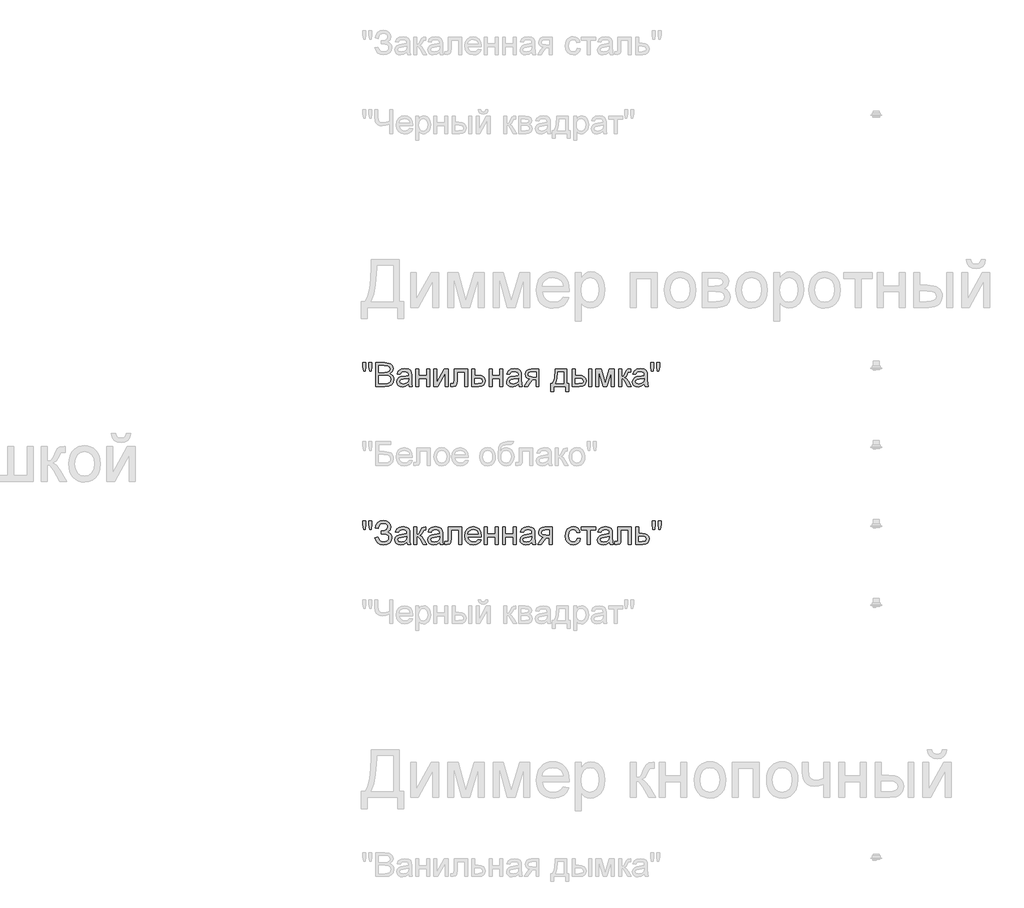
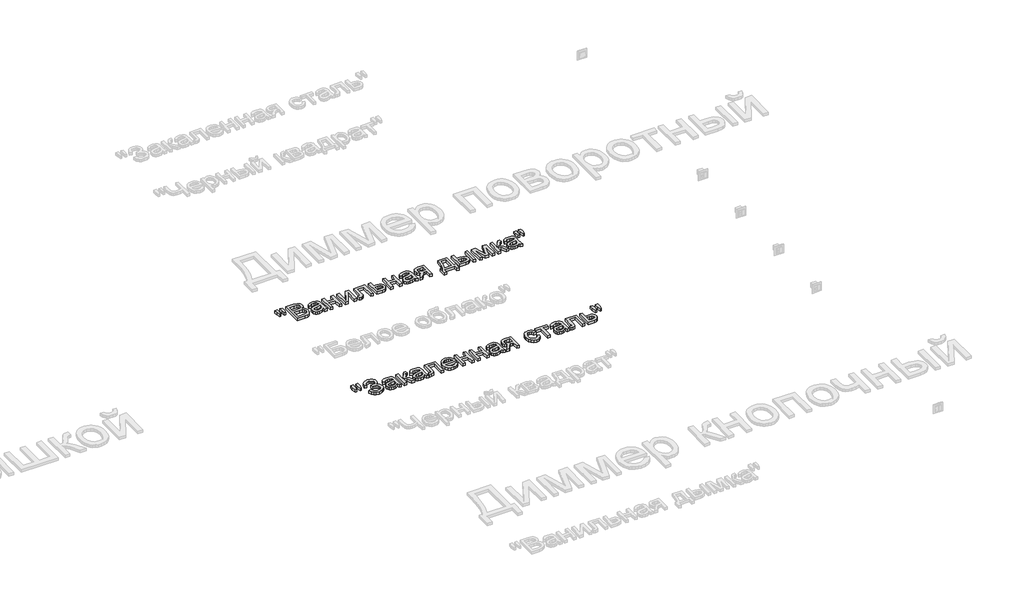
# One storey, part 158 of 168: 2 proxies.
"""IFC4 building model written with IfcOpenShell, lengths in millimetres."""

import ifcopenshell
import ifcopenshell.guid

model = None  # the IFC model being written
_history = None  # IfcOwnerHistory: only IFC2X3 demands one
_inside = {}  # id of a spatial element -> (the spatial element, [elements in it])
_under = {}  # id of a project, library or spatial element -> (it, [spatial elements below it])
_declared = {}  # id of a project -> (the project, [libraries it declares])
_typed = {}  # id of a type object -> (the type object, [elements of that type])
_made_of = {}  # id of a material, layer set ... -> (it, [elements and type objects made of it])


def new_model(schema):
    """Start an empty IFC model of exactly this schema.

    Asked for "IFC4X3", IfcOpenShell would pick the latest addendum, in which some entities
    have other attributes; the version numbers below select the first issue.
    IFC2X3 requires an IfcOwnerHistory on every rooted entity: one is made here for all.
    """
    global model, _history
    if schema == "IFC4X3":
        model = ifcopenshell.file(schema_version=(4, 3, 0, 0))
    else:
        model = ifcopenshell.file(schema=schema)
    _inside.clear()
    _under.clear()
    _declared.clear()
    _typed.clear()
    _made_of.clear()
    _history = None
    if model.schema == "IFC2X3":
        org = make("IfcOrganization", Name="unknown")
        user = make(
            "IfcPersonAndOrganization",
            ThePerson=make("IfcPerson", FamilyName="unknown"),
            TheOrganization=org,
        )
        app = make(
            "IfcApplication",
            ApplicationDeveloper=org,
            Version="unknown",
            ApplicationFullName="unknown",
            ApplicationIdentifier="unknown",
        )
        _history = make(
            "IfcOwnerHistory",
            OwningUser=user,
            OwningApplication=app,
            ChangeAction="ADDED",
            CreationDate=0,
        )
    return model


def make(cls, **values):
    """One entity of the class cls with the attributes given. An attribute that is None is left unset."""
    return model.create_entity(
        cls, **{name: value for name, value in values.items() if value is not None}
    )


def rooted(cls, **values):
    """An entity with a GlobalId (a new one), such as an element, a storey or a relation."""
    return make(cls, GlobalId=ifcopenshell.guid.new(), OwnerHistory=_history, **values)


def si_unit(unit_type, name, prefix=None):
    """IfcSIUnit, for example si_unit("LENGTHUNIT", "METRE", prefix="MILLI")."""
    return make("IfcSIUnit", UnitType=unit_type, Prefix=prefix, Name=name)


def assignment(units):
    """IfcUnitAssignment: the units of a project."""
    return None if units is None else make("IfcUnitAssignment", Units=units)


def point(xyz):
    """IfcCartesianPoint."""
    return None if xyz is None else make("IfcCartesianPoint", Coordinates=xyz)


def direction(xyz):
    """IfcDirection."""
    return None if xyz is None else make("IfcDirection", DirectionRatios=xyz)


def frame(location, z_axis=None, x_axis=None):
    """IfcAxis2Placement3D, a coordinate frame: its origin and axes. An axis left out is left unset."""
    return make(
        "IfcAxis2Placement3D",
        Location=point(location),
        Axis=direction(z_axis),
        RefDirection=direction(x_axis),
    )


def origin():
    """The frame at (0, 0, 0) with its axes left unset."""
    return frame((0.0, 0.0, 0.0))


def origin_with_axes():
    """The frame at (0, 0, 0) with the z axis (0, 0, 1) and the x axis (1, 0, 0) written out."""
    return frame((0.0, 0.0, 0.0), z_axis=(0.0, 0.0, 1.0), x_axis=(1.0, 0.0, 0.0))


def place(relative_to, where):
    """IfcLocalPlacement: puts the frame where relative to a parent placement (None: the world)."""
    return make(
        "IfcLocalPlacement", PlacementRelTo=relative_to, RelativePlacement=where
    )


def context(
    kind, dimensions, precision=None, world=None, true_north=None, identifier=None
):
    """IfcGeometricRepresentationContext, for example the 3D "Model" context."""
    return make(
        "IfcGeometricRepresentationContext",
        ContextIdentifier=identifier,
        ContextType=kind,
        CoordinateSpaceDimension=dimensions,
        Precision=precision,
        WorldCoordinateSystem=world,
        TrueNorth=true_north,
    )


def project(units=None, contexts=None):
    """IfcProject with its units and contexts."""
    return rooted(
        "IfcProject",
        Name="project",
        RepresentationContexts=contexts,
        UnitsInContext=assignment(units),
    )


def spatial(cls, under=None, at=None, **own):
    """A site, building, storey or space (cls), placed at a placement, below another one or the project."""
    s = rooted(cls, ObjectPlacement=at, **own)
    if under is not None:
        _under.setdefault(under.id(), (under, []))[1].append(s)
    return s


def polyline(points):
    """IfcPolyline through the points."""
    return make("IfcPolyline", Points=[point(p) for p in points])


def outline(outer, holes=None, kind="AREA"):
    """IfcArbitraryClosedProfileDef: a profile drawn as a closed curve; with holes, ...WithVoids."""
    if holes is None:
        return make("IfcArbitraryClosedProfileDef", ProfileType=kind, OuterCurve=outer)
    return make(
        "IfcArbitraryProfileDefWithVoids",
        ProfileType=kind,
        OuterCurve=outer,
        InnerCurves=holes,
    )


def extrude(swept, where, along, depth):
    """IfcExtrudedAreaSolid: the profile swept, set in the frame where, extruded along a direction by depth."""
    return make(
        "IfcExtrudedAreaSolid",
        SweptArea=swept,
        Position=where,
        ExtrudedDirection=direction(along),
        Depth=depth,
    )


def shape(context_of_items, identifier, shape_type, items):
    """IfcShapeRepresentation: the items that make up one representation, for example the "Body"."""
    return make(
        "IfcShapeRepresentation",
        ContextOfItems=context_of_items,
        RepresentationIdentifier=identifier,
        RepresentationType=shape_type,
        Items=items,
    )


def made_of(thing, what):
    """Note that an element or type object is made of a material, layer set ...; save() writes the relation."""
    if what is not None:
        _made_of.setdefault(what.id(), (what, []))[1].append(thing)
    return thing


def element(
    cls,
    number,
    at=None,
    inside=None,
    cuts=None,
    type_object=None,
    material=None,
    context=None,
    identifier="Body",
    shape_type=None,
    held_by="IfcProductDefinitionShape",
    body=None,
    shapes=None,
    **own,
):
    """One element of the class cls, such as IfcWall. Its Tag is "e" and its number.

    at: its placement. inside: the storey or other place that contains it. cuts: it is an
    opening in that element (IfcRelVoidsElement). A single representation is given by context,
    identifier, shape_type and body (its items); several are given by shapes. held_by: the class
    of the entity that holds the representations. save() writes the other relations.
    """
    e = rooted(cls, Tag="e%d" % number, ObjectPlacement=at, **own)
    if body is not None:
        shapes = [shape(context, identifier, shape_type, body)]
    if shapes is not None:
        e.Representation = make(held_by, Representations=shapes)
    if inside is not None:
        _inside.setdefault(inside.id(), (inside, []))[1].append(e)
    if cuts is not None:
        rooted(
            "IfcRelVoidsElement", RelatingBuildingElement=cuts, RelatedOpeningElement=e
        )
    if type_object is not None:
        _typed.setdefault(type_object.id(), (type_object, []))[1].append(e)
    return made_of(e, material)


def aggregate(whole, parts):
    """IfcRelAggregates: a whole, such as a stair, and the parts it consists of."""
    return rooted("IfcRelAggregates", RelatingObject=whole, RelatedObjects=parts)


def save(model, path):
    """Write the relations noted so far, then the file.

    IfcRelAggregates (storeys below a building ...), IfcRelContainedInSpatialStructure (elements
    in a storey), IfcRelDefinesByType, IfcRelAssociatesMaterial and IfcRelDeclares: one each for
    every whole, place, type object, material and project.
    """
    for whole, parts in _under.values():
        aggregate(whole, parts)
    for where, things in _inside.values():
        rooted(
            "IfcRelContainedInSpatialStructure",
            RelatedElements=things,
            RelatingStructure=where,
        )
    for kind, things in _typed.values():
        rooted("IfcRelDefinesByType", RelatedObjects=things, RelatingType=kind)
    for what, things in _made_of.values():
        rooted("IfcRelAssociatesMaterial", RelatedObjects=things, RelatingMaterial=what)
    for by, libraries in _declared.values():
        rooted("IfcRelDeclares", RelatingContext=by, RelatedDefinitions=libraries)
    model.write(path)


model = new_model("IFC4")

# Units and contexts
model_context = context("Model", 3, world=origin())
ifc_project = project(units=[si_unit("LENGTHUNIT", "METRE", prefix="MILLI")], contexts=[model_context])

# Site, building, storey
site = spatial("IfcSite", under=ifc_project)
building = spatial("IfcBuilding", under=site)
storey = spatial("IfcBuildingStorey", under=building, Name="Этаж 01", Elevation=0.0)

# Proxies
placement = place(None, origin())
element("IfcBuildingElementProxy", 1, Name="150", ObjectType="150", at=placement, inside=storey, context=model_context, shape_type="SweptSolid", body=[
    extrude(outline(polyline([(71080.1485789, -8551.873446), (71075.550054, -8522.7739802), (71075.550054, -8497.7212163), (71094.3856121, -8497.7212163), (71094.3856121, -8522.7739802), (71090.2653338, -8551.873446), (71080.1485789, -8551.873446)])), origin_with_axes(), (0.0, 0.0, 1.0), 20.0),
    extrude(outline(polyline([(71117.7093306, -8551.873446), (71113.2211703, -8522.7739802), (71113.2211703, -8497.7212163), (71132.0567284, -8497.7212163), (71132.0567284, -8522.7739802), (71127.6421445, -8551.873446), (71117.7093306, -8551.873446)])), origin_with_axes(), (0.0, 0.0, 1.0), 20.0),
    extrude(outline(polyline([(71157.9556209, -8648.4056816), (71157.9556209, -8497.7212163), (71215.4555767, -8497.7212163), (71243.6169435, -8502.1541944), (71253.0807078, -8507.7781904), (71260.2452096, -8515.7842223), (71266.2600803, -8535.0612389), (71261.2017028, -8552.6643923), (71245.9162059, -8566.0001146), (71256.5893823, -8571.5735269), (71264.4758526, -8580.0532069), (71269.3456905, -8590.8781346), (71270.9689698, -8603.48729), (71266.5359918, -8623.7391938), (71255.5547142, -8638.160168), (71239.1655713, -8645.8121135), (71215.0141183, -8648.4056816), (71157.9556209, -8648.4056816)]), holes=[polyline([(71176.791179, -8558.9367803), (71211.1881456, -8558.9367803), (71231.2745025, -8557.3180996), (71243.3594261, -8550.3467358), (71247.4245221, -8538.0778712), (71243.6353376, -8525.7906126), (71232.7828187, -8518.5249432), (71208.5761834, -8516.5567745), (71176.791179, -8516.5567745), (71176.791179, -8558.9367803)]), polyline([(71176.791179, -8629.5701234), (71215.4187885, -8629.5701234), (71229.3983043, -8628.8343594), (71241.2257105, -8624.7324752), (71249.061597, -8616.3631598), (71252.1334117, -8603.671231), (71248.5281681, -8589.0295275), (71236.8479148, -8580.2923302), (71213.5793786, -8577.7723385), (71176.791179, -8577.7723385), (71176.791179, -8629.5701234)])]), origin_with_axes(), (0.0, 0.0, 1.0), 20.0),
    extrude(outline(polyline([(71365.1467606, -8634.279013), (71346.8814195, -8647.0445182), (71326.7030921, -8650.7601263), (71310.9623412, -8648.5252432), (71299.3510657, -8641.8205939), (71292.1911624, -8631.6394596), (71289.804528, -8618.975122), (71293.4097715, -8604.0759012), (71302.8827329, -8593.2601705), (71316.0713024, -8587.079753), (71332.3684748, -8584.2470616), (71365.036396, -8577.7723385), (71365.1467606, -8573.5784838), (71363.8499765, -8565.1723802), (71359.9596244, -8559.6725443), (71351.2592153, -8555.5890542), (71339.1375035, -8554.2278908), (71320.0812162, -8557.8515285), (71310.9945309, -8570.7090042), (71292.1589727, -8568.3545594), (71300.3075589, -8549.9604597), (71316.7150959, -8539.1815172), (71341.5655247, -8535.3923327), (71364.3926025, -8538.7400588), (71377.2868664, -8547.1461624), (71383.0626137, -8559.9300617), (71383.9823187, -8576.4111751), (71383.9823187, -8599.8452582), (71384.9388119, -8632.5683617), (71388.6912083, -8648.4056816), (71369.8556501, -8648.4056816), (71365.1467606, -8634.279013)]), holes=[polyline([(71365.1467606, -8596.6078966), (71334.7597078, -8602.383644), (71318.5545059, -8605.4370645), (71311.2152601, -8610.4034715), (71308.6400861, -8617.6507468), (71314.2502865, -8627.841078), (71330.7130058, -8631.9245682), (71349.7692932, -8627.4180137), (71362.0565518, -8616.5103126), (71365.036396, -8601.9421856), (71365.1467606, -8596.6078966)])]), origin_with_axes(), (0.0, 0.0, 1.0), 20.0),
    extrude(outline(polyline([(71409.8812112, -8537.7467774), (71428.7167693, -8537.7467774), (71428.7167693, -8580.1267833), (71478.1601095, -8580.1267833), (71478.1601095, -8537.7467774), (71496.9956676, -8537.7467774), (71496.9956676, -8648.4056816), (71478.1601095, -8648.4056816), (71478.1601095, -8598.9623414), (71428.7167693, -8598.9623414), (71428.7167693, -8648.4056816), (71409.8812112, -8648.4056816), (71409.8812112, -8537.7467774)])), origin_with_axes(), (0.0, 0.0, 1.0), 20.0),
    extrude(outline(polyline([(71525.2490049, -8537.7467774), (71544.084563, -8537.7467774), (71544.084563, -8622.1389071), (71590.364118, -8537.7467774), (71614.7179061, -8537.7467774), (71614.7179061, -8648.4056816), (71595.8823479, -8648.4056816), (71595.8823479, -8564.5285867), (71549.8970985, -8648.4056816), (71525.2490049, -8648.4056816), (71525.2490049, -8537.7467774)])), origin_with_axes(), (0.0, 0.0, 1.0), 20.0),
    extrude(outline(polyline([(71652.3890224, -8537.7467774), (71737.1490341, -8537.7467774), (71737.1490341, -8648.295317), (71718.3134759, -8648.295317), (71718.3134759, -8556.5823356), (71671.2245806, -8556.5823356), (71671.2245806, -8609.3734019), (71669.9553877, -8633.72719), (71662.9840239, -8644.0094917), (71646.5029105, -8648.4056816), (71631.1990195, -8647.4491884), (71631.1990195, -8629.5701234), (71639.6235172, -8629.5701234), (71648.1399854, -8628.4112951), (71651.5428938, -8624.7324752), (71652.3890224, -8608.3065441), (71652.3890224, -8537.7467774)])), origin_with_axes(), (0.0, 0.0, 1.0), 20.0),
    extrude(outline(polyline([(71765.4023713, -8537.7467774), (71784.2379295, -8537.7467774), (71784.2379295, -8577.7723385), (71805.9429672, -8577.7723385), (71824.7601312, -8580.1313818), (71838.6844648, -8587.2085117), (71847.2929034, -8598.433511), (71850.162383, -8613.2361628), (71847.7205663, -8626.7144394), (71840.395116, -8638.0865916), (71827.6985887, -8645.8259091), (71809.1435405, -8648.4056816), (71765.4023713, -8648.4056816), (71765.4023713, -8537.7467774)]), holes=[polyline([(71784.2379295, -8629.5701234), (71801.8226888, -8629.5701234), (71824.539402, -8625.615392), (71829.6299692, -8620.552416), (71831.3268249, -8613.272951), (71826.3052356, -8601.6846682), (71818.2348244, -8597.8770895), (71804.066769, -8596.6078966), (71784.2379295, -8596.6078966), (71784.2379295, -8629.5701234)])]), origin_with_axes(), (0.0, 0.0, 1.0), 20.0),
    extrude(outline(polyline([(71873.7068307, -8537.7467774), (71892.5423889, -8537.7467774), (71892.5423889, -8580.1267833), (71941.985729, -8580.1267833), (71941.985729, -8537.7467774), (71960.8212872, -8537.7467774), (71960.8212872, -8648.4056816), (71941.985729, -8648.4056816), (71941.985729, -8598.9623414), (71892.5423889, -8598.9623414), (71892.5423889, -8648.4056816), (71873.7068307, -8648.4056816), (71873.7068307, -8537.7467774)])), origin_with_axes(), (0.0, 0.0, 1.0), 20.0),
    extrude(outline(polyline([(72059.7079675, -8634.279013), (72041.4426264, -8647.0445182), (72021.264299, -8650.7601263), (72005.5235481, -8648.5252432), (71993.9122726, -8641.8205939), (71986.7523693, -8631.6394596), (71984.3657349, -8618.975122), (71987.9709784, -8604.0759012), (71997.4439398, -8593.2601705), (72010.6325093, -8587.079753), (72026.9296817, -8584.2470616), (72059.5976029, -8577.7723385), (72059.7079675, -8573.5784838), (72058.4111834, -8565.1723802), (72054.5208313, -8559.6725443), (72045.8204221, -8555.5890542), (72033.6987104, -8554.2278908), (72014.6424231, -8557.8515285), (72005.5557378, -8570.7090042), (71986.7201796, -8568.3545594), (71994.8687658, -8549.9604597), (72011.2763028, -8539.1815172), (72036.1267316, -8535.3923327), (72058.9538094, -8538.7400588), (72071.8480733, -8547.1461624), (72077.6238206, -8559.9300617), (72078.5435256, -8576.4111751), (72078.5435256, -8599.8452582), (72079.5000188, -8632.5683617), (72083.2524152, -8648.4056816), (72064.416857, -8648.4056816), (72059.7079675, -8634.279013)]), holes=[polyline([(72059.7079675, -8596.6078966), (72029.3209147, -8602.383644), (72013.1157128, -8605.4370645), (72005.776467, -8610.4034715), (72003.201293, -8617.6507468), (72008.8114934, -8627.841078), (72025.2742127, -8631.9245682), (72044.3305001, -8627.4180137), (72056.6177587, -8616.5103126), (72059.5976029, -8601.9421856), (72059.7079675, -8596.6078966)])]), origin_with_axes(), (0.0, 0.0, 1.0), 20.0),
    extrude(outline(polyline([(72189.2024298, -8537.7467774), (72189.2024298, -8648.4056816), (72170.3668716, -8648.4056816), (72170.3668716, -8606.0256757), (72160.1029639, -8606.0256757), (72146.1234481, -8608.4169087), (72132.9900609, -8624.4933519), (72117.9804755, -8648.4056816), (72096.2018614, -8648.4056816), (72115.1109959, -8618.1657816), (72123.4619172, -8607.3132627), (72131.1506509, -8602.4940086), (72118.2747811, -8598.5484742), (72109.224884, -8591.0528785), (72103.872201, -8581.0832765), (72102.0879733, -8569.7157228), (72104.5251915, -8556.8214589), (72111.8368462, -8546.6127335), (72123.7654199, -8539.9632664), (72140.0533952, -8537.7467774), (72189.2024298, -8537.7467774)]), holes=[polyline([(72170.3668716, -8556.5823356), (72145.5348369, -8556.5823356), (72132.7095509, -8557.672186), (72125.4300859, -8560.9417372), (72120.9235315, -8571.1504626), (72122.583599, -8578.32876), (72127.5638015, -8583.3089625), (72151.0898551, -8587.1901176), (72170.3668716, -8587.1901176), (72170.3668716, -8556.5823356)])]), origin_with_axes(), (0.0, 0.0, 1.0), 20.0),
    extrude(outline(polyline([(72292.7979996, -8537.7467774), (72363.4313427, -8537.7467774), (72363.4313427, -8629.5701234), (72377.5580113, -8629.5701234), (72377.5580113, -8679.0134636), (72358.7224531, -8679.0134636), (72358.7224531, -8648.4056816), (72281.0257758, -8648.4056816), (72281.0257758, -8679.0134636), (72262.1902176, -8679.0134636), (72262.1902176, -8629.5701234), (72273.9624415, -8629.5701234), (72282.5202964, -8614.105284), (72288.5121744, -8593.6464466), (72292.7979996, -8537.7467774)]), holes=[polyline([(72309.279113, -8556.5823356), (72304.864529, -8599.4957703), (72295.1524444, -8629.5701234), (72344.5957845, -8629.5701234), (72344.5957845, -8556.5823356), (72309.279113, -8556.5823356)])]), origin_with_axes(), (0.0, 0.0, 1.0), 20.0),
    extrude(outline(polyline([(72502.3435841, -8537.7467774), (72521.1791422, -8537.7467774), (72521.1791422, -8648.4056816), (72502.3435841, -8648.4056816), (72502.3435841, -8537.7467774)])), origin_with_axes(), (0.0, 0.0, 1.0), 20.0),
    extrude(outline(polyline([(72398.7480142, -8537.7467774), (72417.5835724, -8537.7467774), (72417.5835724, -8577.7723385), (72440.8705027, -8577.7723385), (72460.9982463, -8580.1313818), (72475.9112627, -8587.2085117), (72485.1405023, -8598.433511), (72488.2169154, -8613.2361628), (72485.637143, -8626.7144394), (72477.8978255, -8638.0865916), (72464.4931253, -8645.8259091), (72444.9172046, -8648.4056816), (72398.7480142, -8648.4056816), (72398.7480142, -8537.7467774)]), holes=[polyline([(72417.5835724, -8629.5701234), (72436.9341653, -8629.5701234), (72461.9133528, -8625.615392), (72467.5143562, -8620.552416), (72469.3813573, -8613.272951), (72463.8447333, -8601.6846682), (72454.9649816, -8597.8770895), (72439.3989747, -8596.6078966), (72417.5835724, -8596.6078966), (72417.5835724, -8629.5701234)])]), origin_with_axes(), (0.0, 0.0, 1.0), 20.0),
    extrude(outline(polyline([(72549.4324794, -8537.7467774), (72581.8428832, -8537.7467774), (72606.8220707, -8626.3327619), (72633.7510327, -8537.7467774), (72664.8002731, -8537.7467774), (72664.8002731, -8648.4056816), (72645.964715, -8648.4056816), (72645.964715, -8559.3046623), (72618.8886001, -8648.4056816), (72594.1669301, -8648.4056816), (72568.2680376, -8555.0372312), (72568.2680376, -8648.4056816), (72549.4324794, -8648.4056816), (72549.4324794, -8537.7467774)])), origin_with_axes(), (0.0, 0.0, 1.0), 20.0),
    extrude(outline(polyline([(72693.0536104, -8537.7467774), (72711.8891685, -8537.7467774), (72711.8891685, -8584.8356728), (72724.5075209, -8581.4511584), (72734.845005, -8561.7326835), (72743.4350496, -8544.7181412), (72751.0134187, -8539.1815172), (72764.7905994, -8537.7467774), (72768.395843, -8537.7467774), (72768.395843, -8556.6927002), (72763.3190714, -8556.5823356), (72754.1220216, -8558.5688983), (72747.6472984, -8570.9665216), (72740.0505352, -8584.3758203), (72729.4003515, -8590.9425139), (72741.2829399, -8598.2725627), (72752.9447992, -8613.7144094), (72773.1047325, -8648.4056816), (72751.6940004, -8648.4056816), (72731.9387373, -8614.4501734), (72722.0059234, -8600.0843815), (72711.8891685, -8596.6078966), (72711.8891685, -8648.4056816), (72693.0536104, -8648.4056816), (72693.0536104, -8537.7467774)])), origin_with_axes(), (0.0, 0.0, 1.0), 20.0),
    extrude(outline(polyline([(72855.5102994, -8634.279013), (72837.2449584, -8647.0445182), (72817.0666309, -8650.7601263), (72801.3258801, -8648.5252432), (72789.7146046, -8641.8205939), (72782.5547013, -8631.6394596), (72780.1680668, -8618.975122), (72783.7733104, -8604.0759012), (72793.2462717, -8593.2601705), (72806.4348413, -8587.079753), (72822.7320137, -8584.2470616), (72855.3999348, -8577.7723385), (72855.5102994, -8573.5784838), (72854.2135154, -8565.1723802), (72850.3231633, -8559.6725443), (72841.6227541, -8555.5890542), (72829.5010424, -8554.2278908), (72810.444755, -8557.8515285), (72801.3580697, -8570.7090042), (72782.5225116, -8568.3545594), (72790.6710978, -8549.9604597), (72807.0786348, -8539.1815172), (72831.9290635, -8535.3923327), (72854.7561413, -8538.7400588), (72867.6504053, -8547.1461624), (72873.4261526, -8559.9300617), (72874.3458576, -8576.4111751), (72874.3458576, -8599.8452582), (72875.3023508, -8632.5683617), (72879.0547471, -8648.4056816), (72860.219189, -8648.4056816), (72855.5102994, -8634.279013)]), holes=[polyline([(72855.5102994, -8596.6078966), (72825.1232466, -8602.383644), (72808.9180447, -8605.4370645), (72801.5787989, -8610.4034715), (72799.003625, -8617.6507468), (72804.6138254, -8627.841078), (72821.0765447, -8631.9245682), (72840.132832, -8627.4180137), (72852.4200907, -8616.5103126), (72855.3999348, -8601.9421856), (72855.5102994, -8596.6078966)])]), origin_with_axes(), (0.0, 0.0, 1.0), 20.0),
    extrude(outline(polyline([(72900.1343854, -8551.873446), (72895.5358605, -8522.7739802), (72895.5358605, -8497.7212163), (72914.3714187, -8497.7212163), (72914.3714187, -8522.7739802), (72910.2511403, -8551.873446), (72900.1343854, -8551.873446)])), origin_with_axes(), (0.0, 0.0, 1.0), 20.0),
    extrude(outline(polyline([(72937.6951372, -8551.873446), (72933.2069768, -8522.7739802), (72933.2069768, -8497.7212163), (72952.042535, -8497.7212163), (72952.042535, -8522.7739802), (72947.627951, -8551.873446), (72937.6951372, -8551.873446)])), origin_with_axes(), (0.0, 0.0, 1.0), 20.0),
])
element("IfcBuildingElementProxy", 2, Name="150", ObjectType="150", at=placement, inside=storey, context=model_context, shape_type="SweptSolid", body=[
    extrude(outline(polyline([(71080.1485789, -9551.873446), (71075.550054, -9522.7739802), (71075.550054, -9497.7212163), (71094.3856121, -9497.7212163), (71094.3856121, -9522.7739802), (71090.2653338, -9551.873446), (71080.1485789, -9551.873446)])), origin_with_axes(), (0.0, 0.0, 1.0), 20.0),
    extrude(outline(polyline([(71117.7093306, -9551.873446), (71113.2211703, -9522.7739802), (71113.2211703, -9497.7212163), (71132.0567284, -9497.7212163), (71132.0567284, -9522.7739802), (71127.6421445, -9551.873446), (71117.7093306, -9551.873446)])), origin_with_axes(), (0.0, 0.0, 1.0), 20.0),
    extrude(outline(polyline([(71150.8922866, -9606.0256757), (71169.7278447, -9601.3167862), (71181.2977335, -9621.7158428), (71192.2284273, -9629.3723868), (71206.2217387, -9631.9245682), (71220.398991, -9630.0069833), (71231.2193202, -9624.2542286), (71238.0757209, -9615.7883442), (71240.3611878, -9605.7313701), (71237.8641888, -9595.1961495), (71230.3731916, -9587.0613589), (71218.5779752, -9581.8604272), (71203.1683181, -9580.1267833), (71193.2722924, -9580.1267833), (71193.2722924, -9561.2912251), (71214.591054, -9559.7645148), (71227.6324708, -9551.9654165), (71233.2978535, -9537.7099892), (71231.4124583, -9528.8394346), (71225.7562726, -9521.2104817), (71216.8811195, -9515.9543677), (71205.3388219, -9514.2023297), (71186.1169876, -9519.591801), (71175.117316, -9533.8840165), (71172.0822895, -9547.1645565), (71153.2467313, -9542.455667), (71159.0983543, -9521.8542752), (71169.7002536, -9507.1389954), (71185.0524291, -9498.3098275), (71205.1548809, -9495.3667716), (71224.5468605, -9498.4247907), (71239.4598769, -9507.5988479), (71248.965028, -9520.8655924), (71252.1334117, -9536.201673), (71247.2037929, -9554.8440931), (71232.4149367, -9568.7592296), (71242.8903765, -9573.5830823), (71251.5080123, -9581.7270699), (71257.2745625, -9592.4922168), (71259.196746, -9605.1795471), (71255.508729, -9623.0172254), (71244.444678, -9637.6819214), (71227.2921799, -9647.4905751), (71205.3388219, -9650.7601263), (71186.2365493, -9647.9642232), (71170.7947025, -9639.5765137), (71159.0132816, -9625.5969979), (71150.8922866, -9606.0256757)])), origin_with_axes(), (0.0, 0.0, 1.0), 20.0),
    extrude(outline(polyline([(71353.3745367, -9634.279013), (71335.1091957, -9647.0445182), (71314.9308682, -9650.7601263), (71299.1901174, -9648.5252432), (71287.5788419, -9641.8205939), (71280.4189386, -9631.6394596), (71278.0323041, -9618.975122), (71281.6375477, -9604.0759012), (71291.110509, -9593.2601705), (71304.2990786, -9587.079753), (71320.596251, -9584.2470616), (71353.2641721, -9577.7723385), (71353.3745367, -9573.5784838), (71352.0777527, -9565.1723802), (71348.1874006, -9559.6725443), (71339.4869914, -9555.5890542), (71327.3652797, -9554.2278908), (71308.3089923, -9557.8515285), (71299.222307, -9570.7090042), (71280.3867489, -9568.3545594), (71288.5353351, -9549.9604597), (71304.9428721, -9539.1815172), (71329.7933008, -9535.3923327), (71352.6203786, -9538.7400588), (71365.5146426, -9547.1461624), (71371.2903899, -9559.9300617), (71372.2100949, -9576.4111751), (71372.2100949, -9599.8452582), (71373.1665881, -9632.5683617), (71376.9189844, -9648.4056816), (71358.0834263, -9648.4056816), (71353.3745367, -9634.279013)]), holes=[polyline([(71353.3745367, -9596.6078966), (71322.9874839, -9602.383644), (71306.782282, -9605.4370645), (71299.4430362, -9610.4034715), (71296.8678623, -9617.6507468), (71302.4780627, -9627.841078), (71318.940782, -9631.9245682), (71337.9970693, -9627.4180137), (71350.284328, -9616.5103126), (71353.2641721, -9601.9421856), (71353.3745367, -9596.6078966)])]), origin_with_axes(), (0.0, 0.0, 1.0), 20.0),
    extrude(outline(polyline([(71398.1089873, -9537.7467774), (71416.9445455, -9537.7467774), (71416.9445455, -9584.8356728), (71429.5628979, -9581.4511584), (71439.900382, -9561.7326835), (71448.4904266, -9544.7181412), (71456.0687957, -9539.1815172), (71469.8459764, -9537.7467774), (71473.4512199, -9537.7467774), (71473.4512199, -9556.6927002), (71468.3744484, -9556.5823356), (71459.1773985, -9558.5688983), (71452.7026754, -9570.9665216), (71445.1059122, -9584.3758203), (71434.4557285, -9590.9425139), (71446.3383169, -9598.2725627), (71458.0001762, -9613.7144094), (71478.1601095, -9648.4056816), (71456.7493774, -9648.4056816), (71436.9941142, -9614.4501734), (71427.0613004, -9600.0843815), (71416.9445455, -9596.6078966), (71416.9445455, -9648.4056816), (71398.1089873, -9648.4056816), (71398.1089873, -9537.7467774)])), origin_with_axes(), (0.0, 0.0, 1.0), 20.0),
    extrude(outline(polyline([(71560.5656764, -9634.279013), (71542.3003353, -9647.0445182), (71522.1220079, -9650.7601263), (71506.381257, -9648.5252432), (71494.7699816, -9641.8205939), (71487.6100782, -9631.6394596), (71485.2234438, -9618.975122), (71488.8286873, -9604.0759012), (71498.3016487, -9593.2601705), (71511.4902183, -9587.079753), (71527.7873906, -9584.2470616), (71560.4553118, -9577.7723385), (71560.5656764, -9573.5784838), (71559.2688924, -9565.1723802), (71555.3785403, -9559.6725443), (71546.6781311, -9555.5890542), (71534.5564193, -9554.2278908), (71515.500132, -9557.8515285), (71506.4134467, -9570.7090042), (71487.5778886, -9568.3545594), (71495.7264748, -9549.9604597), (71512.1340117, -9539.1815172), (71536.9844405, -9535.3923327), (71559.8115183, -9538.7400588), (71572.7057822, -9547.1461624), (71578.4815296, -9559.9300617), (71579.4012346, -9576.4111751), (71579.4012346, -9599.8452582), (71580.3577277, -9632.5683617), (71584.1101241, -9648.4056816), (71565.2745659, -9648.4056816), (71560.5656764, -9634.279013)]), holes=[polyline([(71560.5656764, -9596.6078966), (71530.1786236, -9602.383644), (71513.9734217, -9605.4370645), (71506.6341759, -9610.4034715), (71504.0590019, -9617.6507468), (71509.6692024, -9627.841078), (71526.1319217, -9631.9245682), (71545.188209, -9627.4180137), (71557.4754676, -9616.5103126), (71560.4553118, -9601.9421856), (71560.5656764, -9596.6078966)])]), origin_with_axes(), (0.0, 0.0, 1.0), 20.0),
    extrude(outline(polyline([(71614.7179061, -9537.7467774), (71699.4779178, -9537.7467774), (71699.4779178, -9648.295317), (71680.6423596, -9648.295317), (71680.6423596, -9556.5823356), (71633.5534643, -9556.5823356), (71633.5534643, -9609.3734019), (71632.2842714, -9633.72719), (71625.3129076, -9644.0094917), (71608.8317942, -9648.4056816), (71593.5279032, -9647.4491884), (71593.5279032, -9629.5701234), (71601.9524009, -9629.5701234), (71610.4688691, -9628.4112951), (71613.8717775, -9624.7324752), (71614.7179061, -9608.3065441), (71614.7179061, -9537.7467774)])), origin_with_axes(), (0.0, 0.0, 1.0), 20.0),
    extrude(outline(polyline([(71805.2072032, -9615.4434548), (71823.6748794, -9617.7978996), (71817.0208138, -9631.713036), (71806.4028197, -9642.1148995), (71792.0600204, -9648.5988196), (71774.2315392, -9650.7601263), (71752.1310283, -9647.0307226), (71735.1256831, -9635.8425114), (71724.2823613, -9617.9220597), (71720.6679207, -9593.9959345), (71724.3191495, -9569.2650674), (71735.2728359, -9550.7698), (71752.0482549, -9539.2366995), (71773.1646814, -9535.3923327), (71793.6235189, -9539.2275025), (71809.971275, -9550.7330118), (71820.6904367, -9569.191491), (71824.2634906, -9593.8855699), (71824.153126, -9598.9623414), (71739.5034789, -9598.9623414), (71742.763833, -9613.0614189), (71750.3376036, -9623.4264941), (71761.2682974, -9629.8000497), (71774.5994212, -9631.9245682), (71793.0670974, -9627.9882308), (71805.2072032, -9615.4434548)]), holes=[polyline([(71739.5034789, -9580.1267833), (71805.4279324, -9580.1267833), (71802.8803496, -9570.1755753), (71797.8863515, -9563.0570587), (71786.9050739, -9556.4351828), (71773.091105, -9554.2278908), (71760.3945777, -9555.9891259), (71749.8961452, -9561.272831), (71742.5982861, -9569.5087892), (71739.5034789, -9580.1267833)])]), origin_with_axes(), (0.0, 0.0, 1.0), 20.0),
    extrude(outline(polyline([(71843.0990487, -9537.7467774), (71861.9346069, -9537.7467774), (71861.9346069, -9580.1267833), (71911.377947, -9580.1267833), (71911.377947, -9537.7467774), (71930.2135052, -9537.7467774), (71930.2135052, -9648.4056816), (71911.377947, -9648.4056816), (71911.377947, -9598.9623414), (71861.9346069, -9598.9623414), (71861.9346069, -9648.4056816), (71843.0990487, -9648.4056816), (71843.0990487, -9537.7467774)])), origin_with_axes(), (0.0, 0.0, 1.0), 20.0),
    extrude(outline(polyline([(71958.4668424, -9537.7467774), (71977.3024005, -9537.7467774), (71977.3024005, -9580.1267833), (72026.7457407, -9580.1267833), (72026.7457407, -9537.7467774), (72045.5812988, -9537.7467774), (72045.5812988, -9648.4056816), (72026.7457407, -9648.4056816), (72026.7457407, -9598.9623414), (71977.3024005, -9598.9623414), (71977.3024005, -9648.4056816), (71958.4668424, -9648.4056816), (71958.4668424, -9537.7467774)])), origin_with_axes(), (0.0, 0.0, 1.0), 20.0),
    extrude(outline(polyline([(72144.4679792, -9634.279013), (72126.2026381, -9647.0445182), (72106.0243107, -9650.7601263), (72090.2835598, -9648.5252432), (72078.6722843, -9641.8205939), (72071.512381, -9631.6394596), (72069.1257465, -9618.975122), (72072.7309901, -9604.0759012), (72082.2039515, -9593.2601705), (72095.392521, -9587.079753), (72111.6896934, -9584.2470616), (72144.3576146, -9577.7723385), (72144.4679792, -9573.5784838), (72143.1711951, -9565.1723802), (72139.280843, -9559.6725443), (72130.5804338, -9555.5890542), (72118.4587221, -9554.2278908), (72099.4024347, -9557.8515285), (72090.3157495, -9570.7090042), (72071.4801913, -9568.3545594), (72079.6287775, -9549.9604597), (72096.0363145, -9539.1815172), (72120.8867433, -9535.3923327), (72143.7138211, -9538.7400588), (72156.608085, -9547.1461624), (72162.3838323, -9559.9300617), (72163.3035373, -9576.4111751), (72163.3035373, -9599.8452582), (72164.2600305, -9632.5683617), (72168.0124268, -9648.4056816), (72149.1768687, -9648.4056816), (72144.4679792, -9634.279013)]), holes=[polyline([(72144.4679792, -9596.6078966), (72114.0809264, -9602.383644), (72097.8757245, -9605.4370645), (72090.5364787, -9610.4034715), (72087.9613047, -9617.6507468), (72093.5715051, -9627.841078), (72110.0342244, -9631.9245682), (72129.0905118, -9627.4180137), (72141.3777704, -9616.5103126), (72144.3576146, -9601.9421856), (72144.4679792, -9596.6078966)])]), origin_with_axes(), (0.0, 0.0, 1.0), 20.0),
    extrude(outline(polyline([(72273.9624415, -9537.7467774), (72273.9624415, -9648.4056816), (72255.1268833, -9648.4056816), (72255.1268833, -9606.0256757), (72244.8629756, -9606.0256757), (72230.8834598, -9608.4169087), (72217.7500726, -9624.4933519), (72202.7404872, -9648.4056816), (72180.9618731, -9648.4056816), (72199.8710076, -9618.1657816), (72208.2219289, -9607.3132627), (72215.9106626, -9602.4940086), (72203.0347928, -9598.5484742), (72193.9848957, -9591.0528785), (72188.6322127, -9581.0832765), (72186.847985, -9569.7157228), (72189.2852032, -9556.8214589), (72196.5968579, -9546.6127335), (72208.5254316, -9539.9632664), (72224.8134069, -9537.7467774), (72273.9624415, -9537.7467774)]), holes=[polyline([(72255.1268833, -9556.5823356), (72230.2948486, -9556.5823356), (72217.4695626, -9557.672186), (72210.1900976, -9560.9417372), (72205.6835431, -9571.1504626), (72207.3436107, -9578.32876), (72212.3238132, -9583.3089625), (72235.8498668, -9587.1901176), (72255.1268833, -9587.1901176), (72255.1268833, -9556.5823356)])]), origin_with_axes(), (0.0, 0.0, 1.0), 20.0),
    extrude(outline(polyline([(72431.710241, -9608.3801205), (72450.5457991, -9610.7345653), (72445.2942837, -9627.4869916), (72435.4258491, -9640.1467308), (72421.8693976, -9648.1067774), (72405.5538311, -9650.7601263), (72385.518058, -9647.0583138), (72369.8508835, -9635.952876), (72359.7387272, -9617.9312568), (72356.3680084, -9593.4808997), (72357.8073467, -9576.7192763), (72362.1253616, -9562.192536), (72369.391031, -9550.4616989), (72379.6733328, -9542.087785), (72391.974387, -9537.0661957), (72405.2963137, -9535.3923327), (72421.2118085, -9537.6915951), (72433.9359271, -9544.5893825), (72443.0639991, -9555.7178129), (72448.1913544, -9570.7090042), (72429.3557962, -9573.063449), (72420.6185988, -9558.9551744), (72405.4434665, -9554.2278908), (72393.271171, -9556.5547444), (72383.6096701, -9563.5353053), (72377.3050924, -9575.5466524), (72375.2035665, -9592.9658649), (72377.2591072, -9610.6196021), (72383.4257291, -9622.672336), (72392.9124861, -9629.6115101), (72404.9284317, -9631.9245682), (72414.6819031, -9630.4806314), (72422.678738, -9626.1488209), (72428.4958721, -9618.8187721), (72431.710241, -9608.3801205)])), origin_with_axes(), (0.0, 0.0, 1.0), 20.0),
    extrude(outline(polyline([(72457.6091334, -9537.7467774), (72547.0780347, -9537.7467774), (72547.0780347, -9556.5823356), (72511.7613631, -9556.5823356), (72511.7613631, -9648.4056816), (72492.925805, -9648.4056816), (72492.925805, -9556.5823356), (72457.6091334, -9556.5823356), (72457.6091334, -9537.7467774)])), origin_with_axes(), (0.0, 0.0, 1.0), 20.0),
    extrude(outline(polyline([(72634.1924911, -9634.279013), (72615.9271501, -9647.0445182), (72595.7488226, -9650.7601263), (72580.0080718, -9648.5252432), (72568.3967963, -9641.8205939), (72561.236893, -9631.6394596), (72558.8502585, -9618.975122), (72562.4555021, -9604.0759012), (72571.9284634, -9593.2601705), (72585.117033, -9587.079753), (72601.4142054, -9584.2470616), (72634.0821265, -9577.7723385), (72634.1924911, -9573.5784838), (72632.8957071, -9565.1723802), (72629.005355, -9559.6725443), (72620.3049458, -9555.5890542), (72608.1832341, -9554.2278908), (72589.1269467, -9557.8515285), (72580.0402614, -9570.7090042), (72561.2047033, -9568.3545594), (72569.3532895, -9549.9604597), (72585.7608265, -9539.1815172), (72610.6112552, -9535.3923327), (72633.438333, -9538.7400588), (72646.332597, -9547.1461624), (72652.1083443, -9559.9300617), (72653.0280493, -9576.4111751), (72653.0280493, -9599.8452582), (72653.9845425, -9632.5683617), (72657.7369388, -9648.4056816), (72638.9013807, -9648.4056816), (72634.1924911, -9634.279013)]), holes=[polyline([(72634.1924911, -9596.6078966), (72603.8054383, -9602.383644), (72587.6002364, -9605.4370645), (72580.2609906, -9610.4034715), (72577.6858167, -9617.6507468), (72583.2960171, -9627.841078), (72599.7587364, -9631.9245682), (72618.8150237, -9627.4180137), (72631.1022824, -9616.5103126), (72634.0821265, -9601.9421856), (72634.1924911, -9596.6078966)])]), origin_with_axes(), (0.0, 0.0, 1.0), 20.0),
    extrude(outline(polyline([(72688.3447208, -9537.7467774), (72773.1047325, -9537.7467774), (72773.1047325, -9648.295317), (72754.2691744, -9648.295317), (72754.2691744, -9556.5823356), (72707.180279, -9556.5823356), (72707.180279, -9609.3734019), (72705.9110861, -9633.72719), (72698.9397223, -9644.0094917), (72682.4586089, -9648.4056816), (72667.1547179, -9647.4491884), (72667.1547179, -9629.5701234), (72675.5792156, -9629.5701234), (72684.0956838, -9628.4112951), (72687.4985922, -9624.7324752), (72688.3447208, -9608.3065441), (72688.3447208, -9537.7467774)])), origin_with_axes(), (0.0, 0.0, 1.0), 20.0),
    extrude(outline(polyline([(72801.3580697, -9537.7467774), (72820.1936279, -9537.7467774), (72820.1936279, -9577.7723385), (72841.8986656, -9577.7723385), (72860.7158297, -9580.1313818), (72874.6401632, -9587.2085117), (72883.2486019, -9598.433511), (72886.1180814, -9613.2361628), (72883.6762647, -9626.7144394), (72876.3508145, -9638.0865916), (72863.6542871, -9645.8259091), (72845.099239, -9648.4056816), (72801.3580697, -9648.4056816), (72801.3580697, -9537.7467774)]), holes=[polyline([(72820.1936279, -9629.5701234), (72837.7783873, -9629.5701234), (72860.4951005, -9625.615392), (72865.5856676, -9620.552416), (72867.2825233, -9613.272951), (72862.260934, -9601.6846682), (72854.1905228, -9597.8770895), (72840.0224674, -9596.6078966), (72820.1936279, -9596.6078966), (72820.1936279, -9629.5701234)])]), origin_with_axes(), (0.0, 0.0, 1.0), 20.0),
    extrude(outline(polyline([(72909.5521645, -9551.873446), (72904.9536396, -9522.7739802), (72904.9536396, -9497.7212163), (72923.7891977, -9497.7212163), (72923.7891977, -9522.7739802), (72919.6689194, -9551.873446), (72909.5521645, -9551.873446)])), origin_with_axes(), (0.0, 0.0, 1.0), 20.0),
    extrude(outline(polyline([(72947.1129162, -9551.873446), (72942.6247559, -9522.7739802), (72942.6247559, -9497.7212163), (72961.460314, -9497.7212163), (72961.460314, -9522.7739802), (72957.0457301, -9551.873446), (72947.1129162, -9551.873446)])), origin_with_axes(), (0.0, 0.0, 1.0), 20.0),
])

save(model, "model.ifc")
